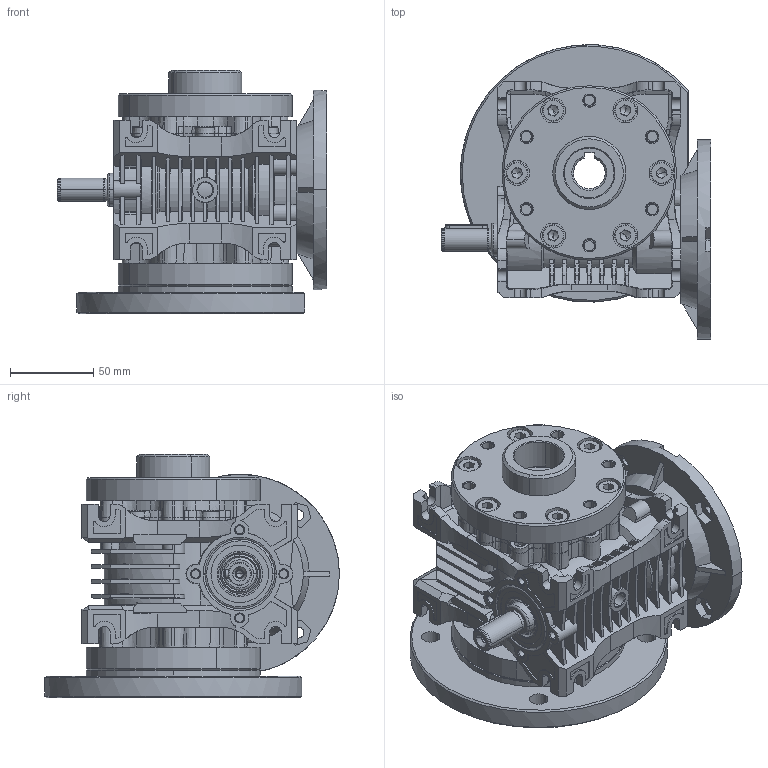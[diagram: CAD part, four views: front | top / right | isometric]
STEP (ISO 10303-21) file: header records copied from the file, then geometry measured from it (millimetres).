
FILE_DESCRIPTION (( 'STEP AP203' ), '1' );
FILE_NAME ('MRP-40_120_9-WBS_SO-2_KM-1_3D.STEP', '2024-10-23T05:16:59', ( '' ), ( '' ), 'SwSTEP 2.0', 'SolidWorks 2022', '' );
FILE_SCHEMA (( 'CONFIG_CONTROL_DESIGN' ));
Products named in the file (1): MRP-40_120_9-WBS_SO-2_KM-1_3D
Bounding box: 162 x 177.44 x 146.5 mm (x, y, z)
Volume: 1188618.5 mm3; surface area: 278402.3 mm2
Topology: 1 solids, 73 shells, 3045 faces, 7881 edges, 5043 vertices
Faces by surface type: plane 1297, cone 838, cylinder 698, torus 134, bspline 78
Entity records: 96970 total; most frequent: CARTESIAN_POINT 23084, ORIENTED_EDGE 15618, DIRECTION 15548, EDGE_CURVE 7809, AXIS2_PLACEMENT_3D 5854, VERTEX_POINT 5043, LINE 3840, VECTOR 3840
